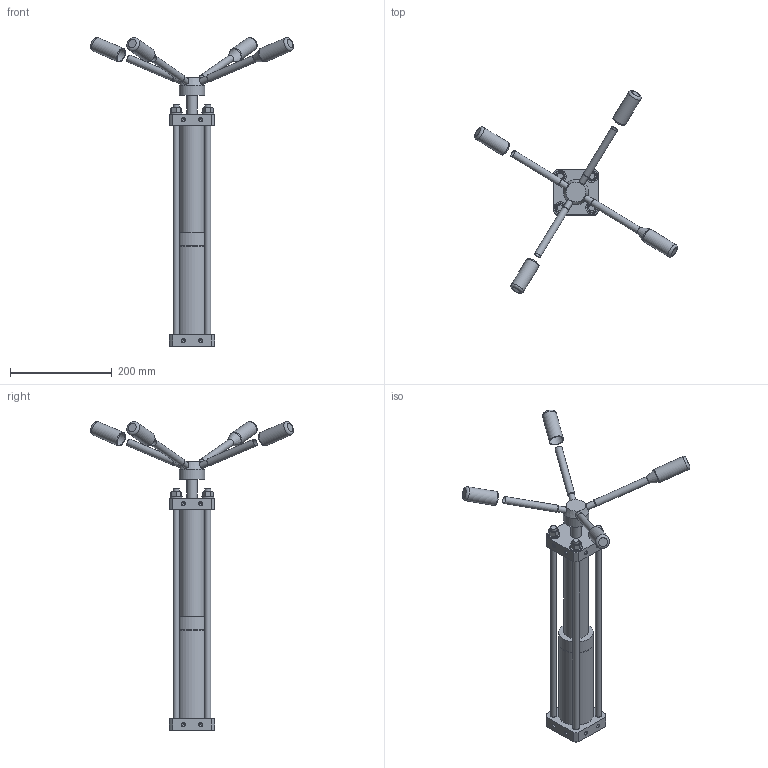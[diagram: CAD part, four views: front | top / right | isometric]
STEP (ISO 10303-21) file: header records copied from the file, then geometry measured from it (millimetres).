
FILE_DESCRIPTION(/* description */ (''),/* implementation_level */ '2;1');
FILE_NAME(/* name */ 'HS6.7000.stp',/* time_stamp */ '2026-06-14T21:05:48+02:00',/* author */ ('janos'),/* organization */ (''),/* preprocessor_version */ 'ST-DEVELOPER v19.2',/* originating_system */ 'Autodesk Inventor 2024',/* authorisation */ '');
FILE_SCHEMA (('AUTOMOTIVE_DESIGN { 1 0 10303 214 3 1 1 }'));
Length unit declared in the file: millimetre
Products named in the file (1): 6.BG.125.1_Vereinfachen_1
Bounding box: 399.08 x 399.08 x 607.71 mm (x, y, z)
Volume: 2036466.6 mm3; surface area: 254970.7 mm2
Topology: 1 solids, 1 shells, 201 faces, 485 edges, 306 vertices
Faces by surface type: cone 71, plane 64, cylinder 57, torus 9
Full cylindrical faces by diameter (mm): 6.647 x16, 12 x12, 14 x4, 14.376 x1, 20 x1, 24 x4, 28 x4, 45 x1, 48 x1, 50 x1, 69 x2
Entity records: 6145 total; most frequent: CARTESIAN_POINT 1289, DIRECTION 988, ORIENTED_EDGE 938, EDGE_CURVE 469, AXIS2_PLACEMENT_3D 409, VERTEX_POINT 306, EDGE_LOOP 249, CIRCLE 207
